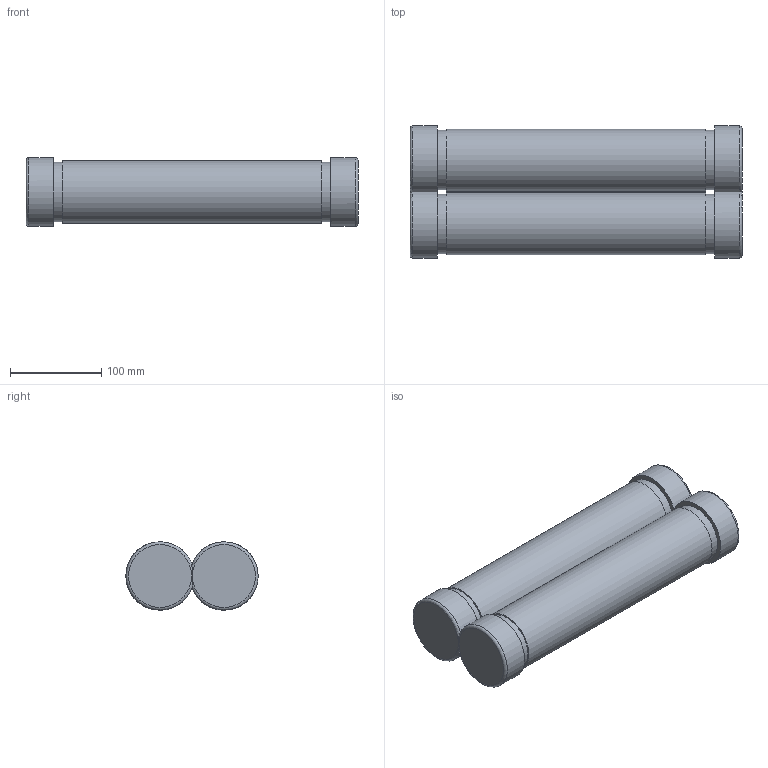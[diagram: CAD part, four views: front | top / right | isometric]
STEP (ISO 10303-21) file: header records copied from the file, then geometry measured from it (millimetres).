
FILE_DESCRIPTION (( 'STEP AP214' ), '1' );
FILE_NAME ('眈襝鍙 玾-1.3-6.STEP', '2023-03-03T11:14:06', ( '' ), ( '' ), 'SwSTEP 2.0', 'SolidWorks 2018', '' );
FILE_SCHEMA (( 'AUTOMOTIVE_DESIGN' ));
Length unit declared in the file: millimetre
Products named in the file (1): 眈襝鍙 玾-1.3-6
Bounding box: 364 x 145 x 75 mm (x, y, z)
Volume: 1344190.8 mm3; surface area: 294179.2 mm2
Topology: 1 solids, 3 shells, 30 faces, 50 edges, 32 vertices
Faces by surface type: plane 14, cylinder 12, torus 4
Full cylindrical faces by diameter (mm): 50 x2, 65 x4, 68 x2
Entity records: 726 total; most frequent: CARTESIAN_POINT 175, DIRECTION 122, ORIENTED_EDGE 68, AXIS2_PLACEMENT_3D 59, EDGE_LOOP 50, FACE_OUTER_BOUND 42, EDGE_CURVE 34, ADVANCED_FACE 30
